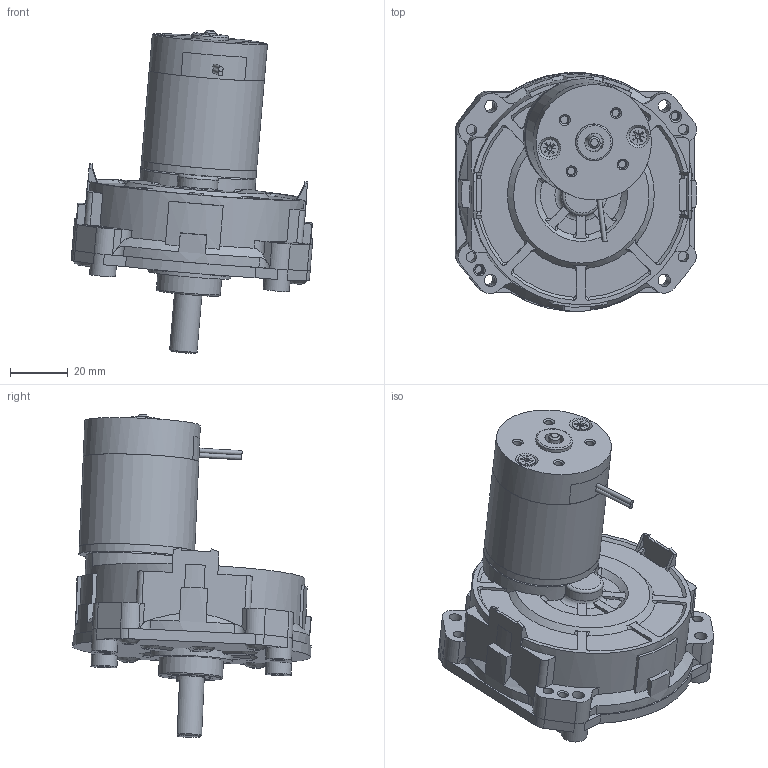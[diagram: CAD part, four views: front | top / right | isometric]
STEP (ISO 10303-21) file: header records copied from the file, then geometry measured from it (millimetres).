
FILE_DESCRIPTION(/* description */ (''),/* implementation_level */ '2;1');
FILE_NAME(/* name */ 'C:\Users\byjeong\Desktop\3D도면\SP42BL.stp',/* time_stamp */ '2015-03-31T15:33:40+09:00',/* author */ ('byjeong'),/* organization */ (''),/* preprocessor_version */ 'ST-DEVELOPER v15.6',/* originating_system */ 'Autodesk Inventor 2015',/* authorisation */ '');
FILE_SCHEMA (('AUTOMOTIVE_DESIGN { 1 0 10303 214 3 1 1 }'));
Length unit declared in the file: millimetre
Products named in the file (11): SP BOX ASSY; DC SP BOX; RM4TYPE_FRONT_HOUSING_; RM4TYPE_PIPE_HOUSING_pi40XL31.2; RM42TYPE_SHAFT; AS 1427 Z - 미터 M3.5 x 5; RM4TYPE_BRUSH_BRAKET_LEAD; RM4TYPE_REAR_HOUSING; REAR_HOUSING__ASS'Y_LEAD; RM42ㅁBL; SP BOX ASSY.ipt
Bounding box: 83.45 x 82.46 x 111.71 mm (x, y, z)
Volume: 94564.4 mm3; surface area: 65364.8 mm2
Topology: 12 solids, 13 shells, 727 faces, 1886 edges, 1229 vertices
Faces by surface type: plane 372, cylinder 192, cone 101, torus 32, bspline 28, sphere 2
Full cylindrical faces by diameter (mm): 1.6 x2, 2.7 x4, 2.8 x4, 3 x14, 3.05 x2, 3.132 x2, 3.4 x2, 3.5 x4, 3.6 x4, 3.7 x2, 3.969 x1, 4 x5, 4.3 x8, 4.5 x4, 5 x2, 6 x1, 6.1 x2, 6.5 x1, 6.65 x1, 9 x4, 9.5 x2, 9.54 x1, 10.5 x1, 12.5 x1, 12.7 x3, 14 x1, 14.3 x2, 14.5 x2, 16.6 x1, 17.6 x1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
Entity records: 22135 total; most frequent: CARTESIAN_POINT 5849, DIRECTION 3312, ORIENTED_EDGE 3236, EDGE_CURVE 1617, AXIS2_PLACEMENT_3D 1316, VERTEX_POINT 1130, EDGE_LOOP 926, FACE_OUTER_BOUND 686
